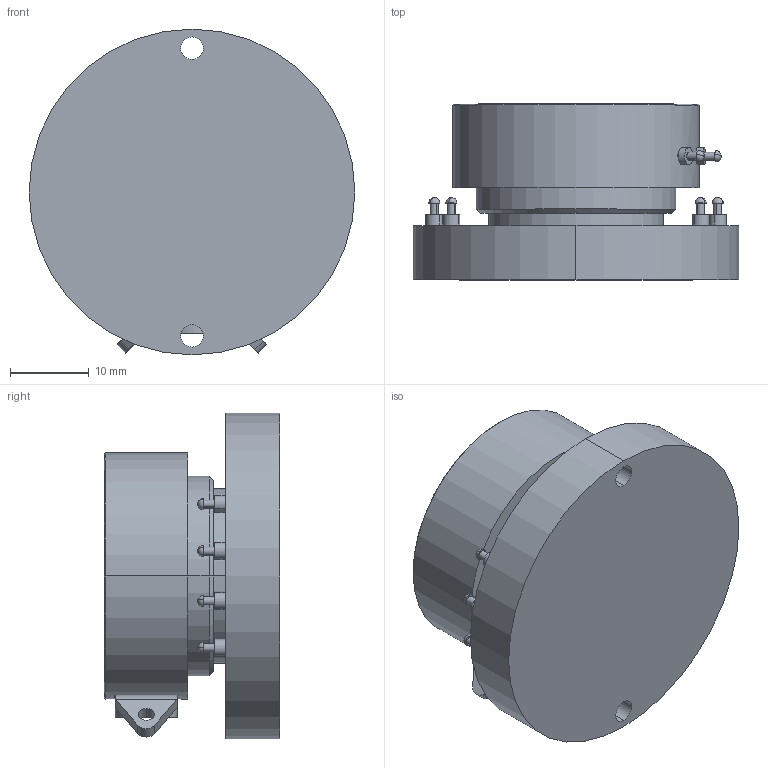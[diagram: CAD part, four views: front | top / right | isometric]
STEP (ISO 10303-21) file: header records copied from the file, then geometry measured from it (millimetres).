
FILE_DESCRIPTION (( 'STEP AP203' ), '1' );
FILE_NAME ('1007829.STEP', '2017-06-05T14:38:13', ( '' ), ( '' ), 'SwSTEP 2.0', 'SolidWorks 2014', '' );
FILE_SCHEMA (( 'CONFIG_CONTROL_DESIGN' ));
Length unit declared in the file: inch
Products named in the file (1): 1007829
Bounding box: 41.26 x 22.26 x 41.26 mm (x, y, z)
Volume: 19324.8 mm3; surface area: 7309.1 mm2
Topology: 1 solids, 4 shells, 687 faces, 1778 edges, 1174 vertices
Faces by surface type: plane 367, bspline 171, cylinder 115, sphere 24, cone 10
Entity records: 30748 total; most frequent: CARTESIAN_POINT 15136, ORIENTED_EDGE 3452, DIRECTION 2634, EDGE_CURVE 1726, VERTEX_POINT 1150, LINE 1096, VECTOR 1096, EDGE_LOOP 800
